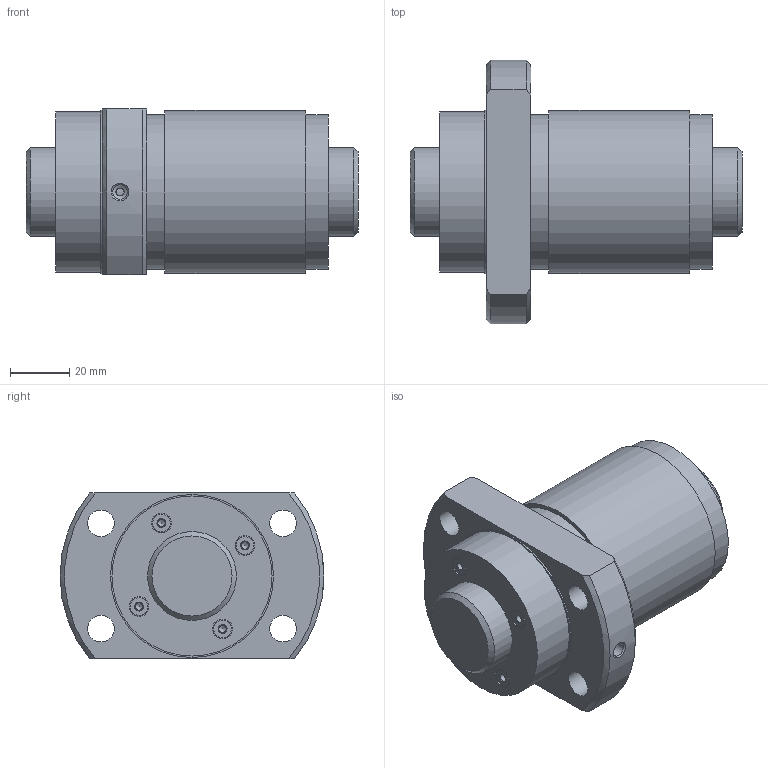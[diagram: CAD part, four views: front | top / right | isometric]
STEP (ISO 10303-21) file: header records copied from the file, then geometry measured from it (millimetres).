
FILE_DESCRIPTION(/* description */ ('STEP AP203'),/* implementation_level */ '2;1');
FILE_NAME(/* name */ 'WGF3090-1.5G1+112LC3_N0_13_0_0',/* time_stamp */ '2025-01-16T06:26:55+01:00',/* author */ ('License CC BY-ND 4.0'),/* organization */ ('CADENAS'),/* preprocessor_version */ 'ST-DEVELOPER v19.3',/* originating_system */ 'PARTsolutions',/* authorisation */ ' ');
FILE_SCHEMA (('CONFIG_CONTROL_DESIGN'));
Length unit declared in the file: millimetre
Products named in the file (3): WGF3090-1.5G1+112LC3_N0_13_0_0; N0130WGF3090-1.50Shaft; NRR0130WGF3090-1.5Nut
Assembly tree (2 placements, depth 2):
  WGF3090-1.5G1+112LC3_N0_13_0_0
    N0130WGF3090-1.50Shaft
    NRR0130WGF3090-1.5Nut
Bounding box: 112 x 89 x 56 mm (x, y, z)
Volume: 257042.3 mm3; surface area: 48599.3 mm2
Topology: 2 solids, 2 shells, 65 faces, 132 edges, 84 vertices
Faces by surface type: cylinder 26, plane 19, cone 16, torus 4
Full cylindrical faces by diameter (mm): 2.5 x4, 4.917 x1, 6.5 x4, 6.7 x4, 9 x4, 30 x2, 52.25 x2, 54 x1, 55 x2
Entity records: 1583 total; most frequent: DIRECTION 276, CARTESIAN_POINT 276, ORIENTED_EDGE 168, FACE_BOUND 134, AXIS2_PLACEMENT_3D 134, EDGE_LOOP 130, EDGE_CURVE 84, VERTEX_POINT 80
